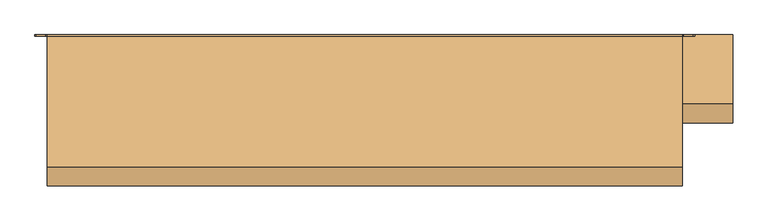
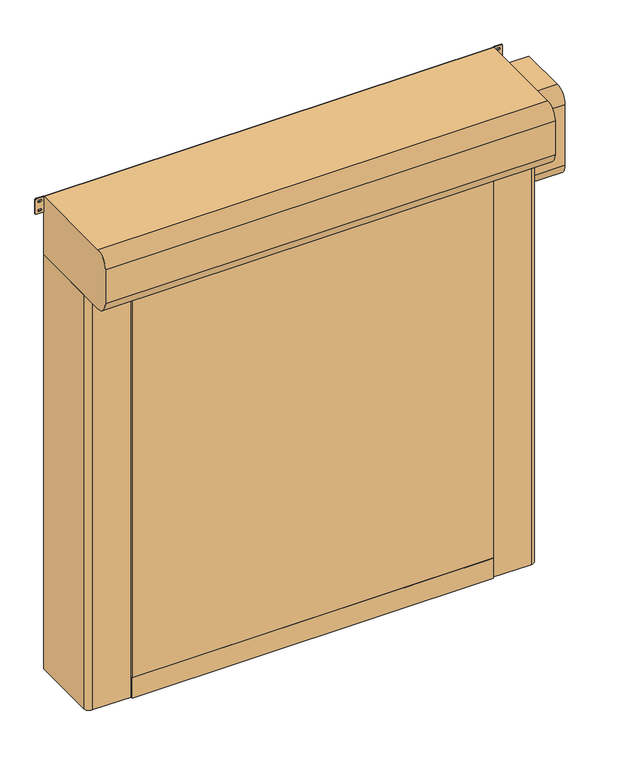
"""IFC4 building model written with IfcOpenShell, lengths in millimetres: door geometry, DO_WPB_Dynamicroll Frigo_Air_BMP : Dynamicroll Frigo2 Air."""

from ifc_helpers import new_model, si_unit, point, frame, frame_2d, origin, origin_with_axes, place, context, project, spatial, polyline, circle_curve, trimmed, segment, composite_curve, outline, extrude, source, transform, mapped, element, save


def door_82254b21(model_context):
    return source(origin(), model_context, "Body", "SweptSolid", [
        extrude(outline(polyline([(-1012.0, -421.5), (1012.0, -421.5), (1012.0, -428.5), (-1012.0, -428.5), (-1012.0, -421.5)])), frame((0.0, 0.0, 120.0), z_axis=(0.0, 0.0, 1.0), x_axis=(1.0, 0.0, 0.0)), (0.0, 0.0, 1.0), 2505.0),
        extrude(outline(polyline([(-1012.0, -419.5), (1012.0, -419.5), (1012.0, -430.5), (-1012.0, -430.5), (-1012.0, -419.5)])), origin_with_axes(), (0.0, 0.0, 1.0), 120.0),
        extrude(outline(composite_curve([segment(trimmed(circle_curve(frame_2d((1583.3333333, 1171.0)), 6.0), [point((1589.3333333, 1171.0))], [point((1577.3333333, 1171.0))], False, "CARTESIAN"), True, "CONTINUOUS"), segment(polyline([(1577.3333333, 1171.0), (1577.3333333, 1189.0)]), True, "CONTINUOUS"), segment(trimmed(circle_curve(frame_2d((1583.3333333, 1189.0)), 6.0), [point((1577.3333333, 1189.0))], [point((1589.3333333, 1189.0))], False, "CARTESIAN"), True, "CONTINUOUS"), segment(polyline([(1589.3333333, 1189.0), (1589.3333333, 1171.0)]), True, "CONTINUOUS")], self_intersect=False)), frame((0.0, -20.0, 0.0), z_axis=(0.0, 1.0, 0.0), x_axis=(0.0, 0.0, 1.0)), (0.0, 0.0, 1.0), 20.0),
        extrude(outline(composite_curve([segment(trimmed(circle_curve(frame_2d((866.6666667, 1171.0)), 6.0), [point((872.6666667, 1171.0))], [point((860.6666667, 1171.0))], False, "CARTESIAN"), True, "CONTINUOUS"), segment(polyline([(860.6666667, 1171.0), (860.6666667, 1189.0)]), True, "CONTINUOUS"), segment(trimmed(circle_curve(frame_2d((866.6666667, 1189.0)), 6.0), [point((860.6666667, 1189.0))], [point((872.6666667, 1189.0))], False, "CARTESIAN"), True, "CONTINUOUS"), segment(polyline([(872.6666667, 1189.0), (872.6666667, 1171.0)]), True, "CONTINUOUS")], self_intersect=False)), frame((0.0, -20.0, 0.0), z_axis=(0.0, 1.0, 0.0), x_axis=(0.0, 0.0, 1.0)), (0.0, 0.0, 1.0), 20.0),
        extrude(outline(composite_curve([segment(trimmed(circle_curve(frame_2d((2300.0, 1171.0)), 6.0), [point((2306.0, 1171.0))], [point((2294.0, 1171.0))], False, "CARTESIAN"), True, "CONTINUOUS"), segment(polyline([(2294.0, 1171.0), (2294.0, 1189.0)]), True, "CONTINUOUS"), segment(trimmed(circle_curve(frame_2d((2300.0, 1189.0)), 6.0), [point((2294.0, 1189.0))], [point((2306.0, 1189.0))], False, "CARTESIAN"), True, "CONTINUOUS"), segment(polyline([(2306.0, 1189.0), (2306.0, 1171.0)]), True, "CONTINUOUS")], self_intersect=False)), frame((0.0, -20.0, 0.0), z_axis=(0.0, 1.0, 0.0), x_axis=(0.0, 0.0, 1.0)), (0.0, 0.0, 1.0), 20.0),
        extrude(outline(composite_curve([segment(trimmed(circle_curve(frame_2d((150.0, 1171.0)), 6.0), [point((156.0, 1171.0))], [point((144.0, 1171.0))], False, "CARTESIAN"), True, "CONTINUOUS"), segment(polyline([(144.0, 1171.0), (144.0, 1189.0)]), True, "CONTINUOUS"), segment(trimmed(circle_curve(frame_2d((150.0, 1189.0)), 6.0), [point((144.0, 1189.0))], [point((156.0, 1189.0))], False, "CARTESIAN"), True, "CONTINUOUS"), segment(polyline([(156.0, 1189.0), (156.0, 1171.0)]), True, "CONTINUOUS")], self_intersect=False)), frame((0.0, -20.0, 0.0), z_axis=(0.0, 1.0, 0.0), x_axis=(0.0, 0.0, 1.0)), (0.0, 0.0, 1.0), 20.0),
        extrude(outline(composite_curve([segment(polyline([(1589.3333333, -1171.0), (1589.3333333, -1189.0)]), True, "CONTINUOUS"), segment(trimmed(circle_curve(frame_2d((1583.3333333, -1189.0)), 6.0), [point((1589.3333333, -1189.0))], [point((1577.3333333, -1189.0))], False, "CARTESIAN"), True, "CONTINUOUS"), segment(polyline([(1577.3333333, -1189.0), (1577.3333333, -1171.0)]), True, "CONTINUOUS"), segment(trimmed(circle_curve(frame_2d((1583.3333333, -1171.0)), 6.0), [point((1577.3333333, -1171.0))], [point((1589.3333333, -1171.0))], False, "CARTESIAN"), True, "CONTINUOUS")], self_intersect=False)), frame((0.0, -20.0, 0.0), z_axis=(0.0, 1.0, 0.0), x_axis=(0.0, 0.0, 1.0)), (0.0, 0.0, 1.0), 20.0),
        extrude(outline(composite_curve([segment(polyline([(872.6666667, -1171.0), (872.6666667, -1189.0)]), True, "CONTINUOUS"), segment(trimmed(circle_curve(frame_2d((866.6666667, -1189.0)), 6.0), [point((872.6666667, -1189.0))], [point((860.6666667, -1189.0))], False, "CARTESIAN"), True, "CONTINUOUS"), segment(polyline([(860.6666667, -1189.0), (860.6666667, -1171.0)]), True, "CONTINUOUS"), segment(trimmed(circle_curve(frame_2d((866.6666667, -1171.0)), 6.0), [point((860.6666667, -1171.0))], [point((872.6666667, -1171.0))], False, "CARTESIAN"), True, "CONTINUOUS")], self_intersect=False)), frame((0.0, -20.0, 0.0), z_axis=(0.0, 1.0, 0.0), x_axis=(0.0, 0.0, 1.0)), (0.0, 0.0, 1.0), 20.0),
        extrude(outline(composite_curve([segment(polyline([(2306.0, -1171.0), (2306.0, -1189.0)]), True, "CONTINUOUS"), segment(trimmed(circle_curve(frame_2d((2300.0, -1189.0)), 6.0), [point((2306.0, -1189.0))], [point((2294.0, -1189.0))], False, "CARTESIAN"), True, "CONTINUOUS"), segment(polyline([(2294.0, -1189.0), (2294.0, -1171.0)]), True, "CONTINUOUS"), segment(trimmed(circle_curve(frame_2d((2300.0, -1171.0)), 6.0), [point((2294.0, -1171.0))], [point((2306.0, -1171.0))], False, "CARTESIAN"), True, "CONTINUOUS")], self_intersect=False)), frame((0.0, -20.0, 0.0), z_axis=(0.0, 1.0, 0.0), x_axis=(0.0, 0.0, 1.0)), (0.0, 0.0, 1.0), 20.0),
        extrude(outline(composite_curve([segment(polyline([(156.0, -1171.0), (156.0, -1189.0)]), True, "CONTINUOUS"), segment(trimmed(circle_curve(frame_2d((150.0, -1189.0)), 6.0), [point((156.0, -1189.0))], [point((144.0, -1189.0))], False, "CARTESIAN"), True, "CONTINUOUS"), segment(polyline([(144.0, -1189.0), (144.0, -1171.0)]), True, "CONTINUOUS"), segment(trimmed(circle_curve(frame_2d((150.0, -1171.0)), 6.0), [point((144.0, -1171.0))], [point((156.0, -1171.0))], False, "CARTESIAN"), True, "CONTINUOUS")], self_intersect=False)), frame((0.0, -20.0, 0.0), z_axis=(0.0, 1.0, 0.0), x_axis=(0.0, 0.0, 1.0)), (0.0, 0.0, 1.0), 20.0),
        extrude(outline(polyline([(-1012.0, -221.5), (1012.0, -221.5), (1012.0, -228.5), (-1012.0, -228.5), (-1012.0, -221.5)])), frame((0.0, 0.0, 120.0), z_axis=(0.0, 0.0, 1.0), x_axis=(1.0, 0.0, 0.0)), (0.0, 0.0, 1.0), 2505.0),
        extrude(outline(polyline([(-1012.0, -219.5), (1012.0, -219.5), (1012.0, -230.5), (-1012.0, -230.5), (-1012.0, -219.5)])), origin_with_axes(), (0.0, 0.0, 1.0), 120.0),
        extrude(outline(composite_curve([segment(polyline([(-1260.0, 0.0), (-1015.0, 0.0), (-1015.0, -209.2857143), (-1035.0, -215.0), (-1000.0, -215.0), (-1000.0, -221.5), (-1020.0, -221.5), (-1020.0, -228.5), (-1000.0, -228.5), (-1000.0, -235.0), (-1035.0, -235.0), (-1035.0, -250.0), (-1005.0, -250.0), (-1005.0, -420.0), (-1230.0, -420.0)]), True, "CONTINUOUS"), segment(trimmed(circle_curve(frame_2d((-1230.0, -390.0)), 30.0), [point((-1230.0, -420.0))], [point((-1260.0, -390.0))], False, "CARTESIAN"), True, "CONTINUOUS"), segment(polyline([(-1260.0, -390.0), (-1260.0, 0.0)]), True, "CONTINUOUS")], self_intersect=False)), origin_with_axes(), (0.0, 0.0, 1.0), 2450.0),
        extrude(outline(composite_curve([segment(polyline([(1260.0, 0.0), (1260.0, -390.0)]), True, "CONTINUOUS"), segment(trimmed(circle_curve(frame_2d((1230.0, -390.0)), 30.0), [point((1260.0, -390.0))], [point((1230.0, -420.0))], False, "CARTESIAN"), True, "CONTINUOUS"), segment(polyline([(1230.0, -420.0), (1005.0, -420.0), (1005.0, -250.0), (1035.0, -250.0), (1035.0, -235.0), (1000.0, -235.0), (1000.0, -228.5), (1020.0, -228.5), (1020.0, -221.5), (1000.0, -221.5), (1000.0, -215.0), (1035.0, -215.0), (1015.0, -209.2857143), (1015.0, 0.0), (1260.0, 0.0)]), True, "CONTINUOUS")], self_intersect=False)), origin_with_axes(), (0.0, 0.0, 1.0), 2450.0),
        extrude(outline(composite_curve([segment(trimmed(circle_curve(frame_2d((-5.0, 2455.0)), 5.0), [point((0.0, 2455.0))], [point((-5.0, 2450.0))], False, "CARTESIAN"), True, "CONTINUOUS"), segment(polyline([(-5.0, 2450.0), (-525.0, 2450.0)]), True, "CONTINUOUS"), segment(trimmed(circle_curve(frame_2d((-525.0, 2525.0)), 75.0), [point((-525.0, 2450.0))], [point((-600.0, 2525.0))], False, "CARTESIAN"), True, "CONTINUOUS"), segment(polyline([(-600.0, 2525.0), (-600.0, 2725.0)]), True, "CONTINUOUS"), segment(trimmed(circle_curve(frame_2d((-525.0, 2725.0)), 75.0), [point((-600.0, 2725.0))], [point((-525.0, 2800.0))], False, "CARTESIAN"), True, "CONTINUOUS"), segment(polyline([(-525.0, 2800.0), (-5.0, 2800.0)]), True, "CONTINUOUS"), segment(trimmed(circle_curve(frame_2d((-5.0, 2795.0)), 5.0), [point((-5.0, 2800.0))], [point((0.0, 2795.0))], False, "CARTESIAN"), True, "CONTINUOUS"), segment(polyline([(0.0, 2795.0), (0.0, 2455.0)]), True, "CONTINUOUS")], self_intersect=False)), frame((-1260.0, 0.0, 0.0), z_axis=(1.0, 0.0, 0.0), x_axis=(0.0, 1.0, 0.0)), (0.0, 0.0, 1.0), 2520.0),
        extrude(outline(composite_curve([segment(trimmed(circle_curve(frame_2d((2713.75, 1265.75)), 5.75), [point((2713.75, 1260.0))], [point((2708.0, 1265.75))], False, "CARTESIAN"), True, "CONTINUOUS"), segment(polyline([(2708.0, 1265.75), (2708.0, 1303.25)]), True, "CONTINUOUS"), segment(trimmed(circle_curve(frame_2d((2713.75, 1303.25)), 5.75), [point((2708.0, 1303.25))], [point((2713.75, 1309.0))], False, "CARTESIAN"), True, "CONTINUOUS"), segment(polyline([(2713.75, 1309.0), (2794.25, 1309.0)]), True, "CONTINUOUS"), segment(trimmed(circle_curve(frame_2d((2794.25, 1303.25)), 5.75), [point((2794.25, 1309.0))], [point((2800.0, 1303.25))], False, "CARTESIAN"), True, "CONTINUOUS"), segment(polyline([(2800.0, 1303.25), (2800.0, 1265.75)]), True, "CONTINUOUS"), segment(trimmed(circle_curve(frame_2d((2794.25, 1265.75)), 5.75), [point((2800.0, 1265.75))], [point((2794.25, 1260.0))], False, "CARTESIAN"), True, "CONTINUOUS"), segment(polyline([(2794.25, 1260.0), (2713.75, 1260.0)]), True, "CONTINUOUS")], self_intersect=False), holes=[composite_curve([segment(trimmed(circle_curve(frame_2d((2781.5, 1288.75)), 5.75), [point((2787.25, 1288.75))], [point((2775.75, 1288.75))], True, "CARTESIAN"), True, "CONTINUOUS"), segment(polyline([(2775.75, 1288.75), (2775.75, 1280.25)]), True, "CONTINUOUS"), segment(trimmed(circle_curve(frame_2d((2781.5, 1280.25)), 5.75), [point((2775.75, 1280.25))], [point((2787.25, 1280.25))], True, "CARTESIAN"), True, "CONTINUOUS"), segment(polyline([(2787.25, 1280.25), (2787.25, 1288.75)]), True, "CONTINUOUS")], self_intersect=False), composite_curve([segment(trimmed(circle_curve(frame_2d((2726.5, 1288.75)), 5.75), [point((2732.25, 1288.75))], [point((2720.75, 1288.75))], True, "CARTESIAN"), True, "CONTINUOUS"), segment(polyline([(2720.75, 1288.75), (2720.75, 1280.25)]), True, "CONTINUOUS"), segment(trimmed(circle_curve(frame_2d((2726.5, 1280.25)), 5.75), [point((2720.75, 1280.25))], [point((2732.25, 1280.25))], True, "CARTESIAN"), True, "CONTINUOUS"), segment(polyline([(2732.25, 1280.25), (2732.25, 1288.75)]), True, "CONTINUOUS")], self_intersect=False)]), frame((0.0, -5.0, 0.0), z_axis=(0.0, 1.0, 0.0), x_axis=(0.0, 0.0, 1.0)), (0.0, 0.0, 1.0), 5.0),
        extrude(outline(composite_curve([segment(trimmed(circle_curve(frame_2d((2713.75, -1303.25)), 5.75), [point((2713.75, -1309.0))], [point((2708.0, -1303.25))], False, "CARTESIAN"), True, "CONTINUOUS"), segment(polyline([(2708.0, -1303.25), (2708.0, -1265.75)]), True, "CONTINUOUS"), segment(trimmed(circle_curve(frame_2d((2713.75, -1265.75)), 5.75), [point((2708.0, -1265.75))], [point((2713.75, -1260.0))], False, "CARTESIAN"), True, "CONTINUOUS"), segment(polyline([(2713.75, -1260.0), (2794.25, -1260.0)]), True, "CONTINUOUS"), segment(trimmed(circle_curve(frame_2d((2794.25, -1265.75)), 5.75), [point((2794.25, -1260.0))], [point((2800.0, -1265.75))], False, "CARTESIAN"), True, "CONTINUOUS"), segment(polyline([(2800.0, -1265.75), (2800.0, -1303.25)]), True, "CONTINUOUS"), segment(trimmed(circle_curve(frame_2d((2794.25, -1303.25)), 5.75), [point((2800.0, -1303.25))], [point((2794.25, -1309.0))], False, "CARTESIAN"), True, "CONTINUOUS"), segment(polyline([(2794.25, -1309.0), (2713.75, -1309.0)]), True, "CONTINUOUS")], self_intersect=False), holes=[composite_curve([segment(trimmed(circle_curve(frame_2d((2781.5, -1280.25)), 5.75), [point((2787.25, -1280.25))], [point((2775.75, -1280.25))], True, "CARTESIAN"), True, "CONTINUOUS"), segment(polyline([(2775.75, -1280.25), (2775.75, -1288.75)]), True, "CONTINUOUS"), segment(trimmed(circle_curve(frame_2d((2781.5, -1288.75)), 5.75), [point((2775.75, -1288.75))], [point((2787.25, -1288.75))], True, "CARTESIAN"), True, "CONTINUOUS"), segment(polyline([(2787.25, -1288.75), (2787.25, -1280.25)]), True, "CONTINUOUS")], self_intersect=False), composite_curve([segment(trimmed(circle_curve(frame_2d((2726.5, -1280.25)), 5.75), [point((2732.25, -1280.25))], [point((2720.75, -1280.25))], True, "CARTESIAN"), True, "CONTINUOUS"), segment(polyline([(2720.75, -1280.25), (2720.75, -1288.75)]), True, "CONTINUOUS"), segment(trimmed(circle_curve(frame_2d((2726.5, -1288.75)), 5.75), [point((2720.75, -1288.75))], [point((2732.25, -1288.75))], True, "CARTESIAN"), True, "CONTINUOUS"), segment(polyline([(2732.25, -1288.75), (2732.25, -1280.25)]), True, "CONTINUOUS")], self_intersect=False)]), frame((0.0, -5.0, 0.0), z_axis=(0.0, 1.0, 0.0), x_axis=(0.0, 0.0, 1.0)), (0.0, 0.0, 1.0), 5.0),
        extrude(outline(composite_curve([segment(polyline([(0.0, 2675.0), (0.0, 2165.0), (-275.0, 2165.0)]), True, "CONTINUOUS"), segment(trimmed(circle_curve(frame_2d((-275.0, 2240.0)), 75.0), [point((-275.0, 2165.0))], [point((-350.0, 2240.0))], False, "CARTESIAN"), True, "CONTINUOUS"), segment(polyline([(-350.0, 2240.0), (-350.0, 2600.0)]), True, "CONTINUOUS"), segment(trimmed(circle_curve(frame_2d((-275.0, 2600.0)), 75.0), [point((-350.0, 2600.0))], [point((-275.0, 2675.0))], False, "CARTESIAN"), True, "CONTINUOUS"), segment(polyline([(-275.0, 2675.0), (0.0, 2675.0)]), True, "CONTINUOUS")], self_intersect=False)), frame((1260.0, 0.0, 0.0), z_axis=(1.0, 0.0, 0.0), x_axis=(0.0, 1.0, 0.0)), (0.0, 0.0, 1.0), 200.0),
    ])


if __name__ == "__main__":
    model = new_model("IFC4")
    model_context = context("Model", 3, world=origin())
    ifc_project = project(units=[si_unit("LENGTHUNIT", "METRE", prefix="MILLI")], contexts=[model_context])
    site = spatial("IfcSite", under=ifc_project)
    building = spatial("IfcBuilding", under=site)
    placement = place(None, origin())
    door_shape = door_82254b21(model_context)
    element("IfcDoor", 1, ObjectType="DO_WPB_Dynamicroll Frigo_Air_BMP : Dynamicroll Frigo2 Air", at=placement, inside=building, context=model_context, shape_type="MappedRepresentation", body=[
        mapped(door_shape, transform((0.0, 0.0, 0.0), x_axis=(1.0, 0.0, 0.0), y_axis=(0.0, 1.0, 0.0), z_axis=(0.0, 0.0, 1.0))),
    ])
    save(model, "model.ifc")
